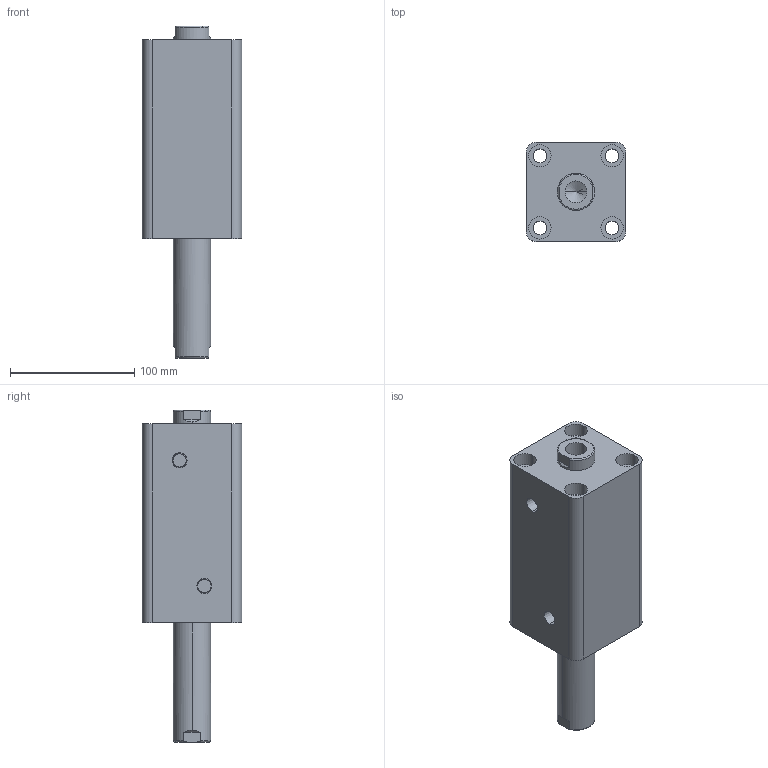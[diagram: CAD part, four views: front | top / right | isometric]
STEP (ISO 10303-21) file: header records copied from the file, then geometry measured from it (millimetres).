
FILE_DESCRIPTION (( 'STEP AP203' ), '1' );
FILE_NAME ('HTB-SW50-85N.STEP', '2019-10-07T09:24:30', ( '微软用户' ), ( '微软中国' ), 'SwSTEP 2.0', 'SolidWorks 2012', '' );
FILE_SCHEMA (( 'CONFIG_CONTROL_DESIGN' ));
Length unit declared in the file: millimetre
Products named in the file (3): HTB-SW50-85N; HTB-SW50-85N活塞杆; HTB-SW50-85掛极
Assembly tree (2 placements, depth 2):
  HTB-SW50-85N
    HTB-SW50-85掛极
    HTB-SW50-85N活塞杆
Bounding box: 80 x 80 x 267 mm (x, y, z)
Volume: 893798.7 mm3; surface area: 141630.9 mm2
Topology: 2 solids, 2 shells, 100 faces, 228 edges, 146 vertices
Faces by surface type: cylinder 48, plane 32, torus 12, cone 8
Entity records: 3237 total; most frequent: CARTESIAN_POINT 595, DIRECTION 542, ORIENTED_EDGE 448, AXIS2_PLACEMENT_3D 229, EDGE_CURVE 224, VERTEX_POINT 146, EDGE_LOOP 128, CIRCLE 124
